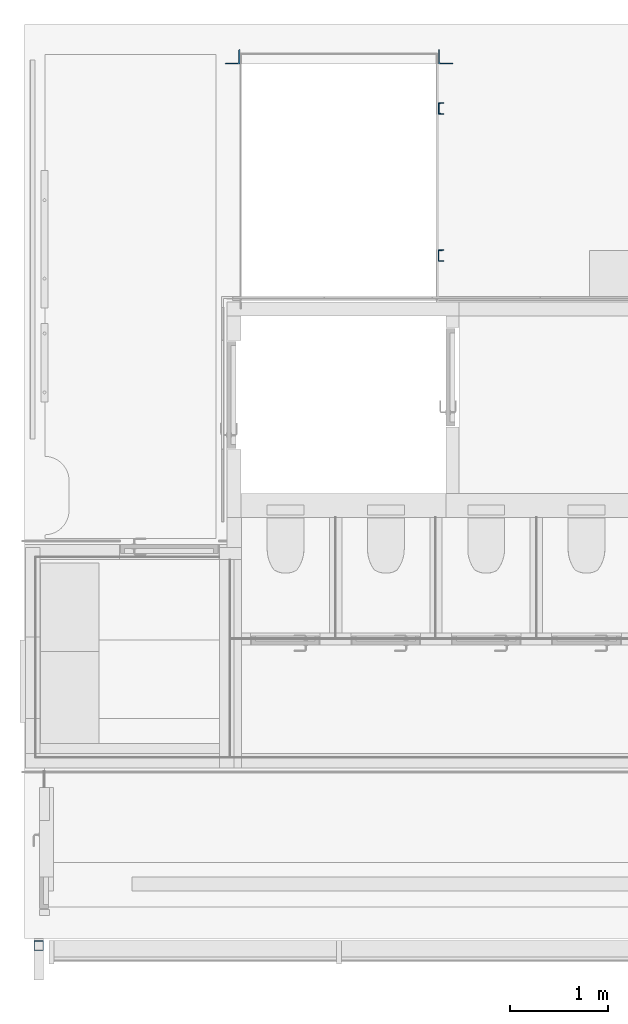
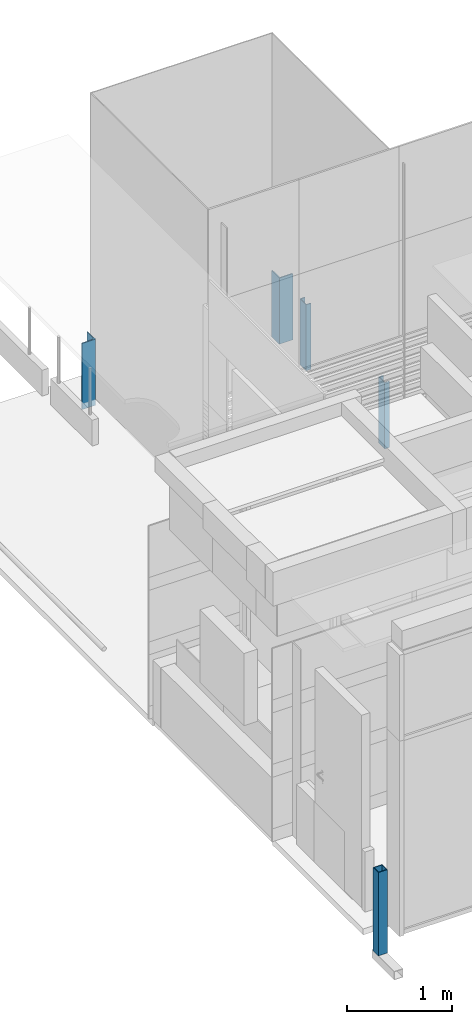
# One storey, part 1 of 26: 5 columns.
"""IFC2X3 building model written with IfcOpenShell, lengths in millimetres."""

from ifc_helpers import new_model, entity, si_unit, converted_unit, derived_unit, direction, frame, frame_2d, origin, origin_with_axes, place, context, subcontext, project, spatial, polyline, circle_curve, parameter, trimmed, segment, composite_curve, outline, extrude, source, transform, mapped, material, type_object, element, save


model = new_model("IFC2X3")

# Units and contexts
model_context = context("Model", 3, precision=0.01, world=frame((0.0, 4.29681676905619e-09, 0.0)), true_north=direction((4.01073788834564e-13, 1.0)))
plan_context = context("Plan", 3, precision=0.01, world=frame((0.0, 4.29681676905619e-09, 0.0)), true_north=direction((4.01073788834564e-13, 1.0)))
body_context = subcontext(model_context, "Body", "Model", "MODEL_VIEW")
ifc_project = project(units=[converted_unit("PLANEANGLEUNIT", "DEGREE", entity("IfcPositiveLengthMeasure", 0.0174532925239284), si_unit("PLANEANGLEUNIT", "RADIAN"), dimensions=[0, 0, 0, 0, 0, 0, 0]), si_unit("AREAUNIT", "SQUARE_METRE"), si_unit("LENGTHUNIT", "METRE", prefix="MILLI"), si_unit("MASSUNIT", "GRAM", prefix="KILO"), si_unit("POWERUNIT", "WATT"), si_unit("PRESSUREUNIT", "PASCAL", prefix="KILO"), si_unit("FORCEUNIT", "NEWTON", prefix="KILO"), si_unit("ELECTRICVOLTAGEUNIT", "VOLT"), si_unit("ELECTRICCURRENTUNIT", "AMPERE"), si_unit("THERMODYNAMICTEMPERATUREUNIT", "DEGREE_CELSIUS"), si_unit("TIMEUNIT", "SECOND"), si_unit("VOLUMEUNIT", "CUBIC_METRE"), derived_unit("LINEARVELOCITYUNIT", [(si_unit("LENGTHUNIT", "METRE"), 1), (si_unit("TIMEUNIT", "SECOND"), -1)]), derived_unit("VOLUMETRICFLOWRATEUNIT", [(si_unit("VOLUMEUNIT", "CUBIC_METRE"), 1), (si_unit("TIMEUNIT", "SECOND"), -1)]), derived_unit("THERMALTRANSMITTANCEUNIT", [(si_unit("POWERUNIT", "WATT"), 1), (si_unit("THERMODYNAMICTEMPERATUREUNIT", "KELVIN"), -1), (si_unit("AREAUNIT", "SQUARE_METRE"), -1)]), derived_unit("SOUNDPRESSUREUNIT", [(si_unit("PRESSUREUNIT", "PASCAL"), 1)])], contexts=[model_context, plan_context])

# Site, building, storey
site_placement = place(None, origin_with_axes())
site = spatial("IfcSite", under=ifc_project, at=site_placement, Name="ENGM", CompositionType="ELEMENT")
building_placement = place(site_placement, origin_with_axes())
building = spatial("IfcBuilding", under=site, at=building_placement, Name="TG", CompositionType="ELEMENT")
storey_placement = place(building_placement, frame((0.0, 0.0, 210200.0), z_axis=(0.0, 0.0, 1.0), x_axis=(1.0, 0.0, 0.0)))
storey = spatial("IfcBuildingStorey", under=building, at=storey_placement, Name="Nivå F - 0,7 m", CompositionType="ELEMENT", Elevation=210200.0)

# Columns
ifc_material = material(Name="_NSW Stål")
column_type_1 = type_object("IfcColumnType", Name="B222 - HUP (Oppsveiset):B222 - HUP oppsveiset - 100 x 100 x 6.3 mm", PredefinedType="COLUMN", material=ifc_material)
shared_shape_1 = source(origin(), body_context, "Body", "SweptSolid", [
    extrude(outline(polyline([(-50.0, -50.0), (50.0, -50.0), (50.0, 50.0), (-50.0, 50.0), (-50.0, -50.0)]), holes=[polyline([(-43.6999999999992, -43.6999999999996), (-43.6999999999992, 43.6999999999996), (43.7000000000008, 43.6999999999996), (43.7000000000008, -43.6999999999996), (-43.6999999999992, -43.6999999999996)])]), frame((0.0, 0.0, 209930.0), z_axis=(0.0, 0.0, 1.0), x_axis=(0.0, 1.0, 0.0)), (0.0, 0.0, 1.0), 970.000000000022),
])
column_1_placement = place(storey_placement, frame((321940.336691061, 458115.000000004, -210200.0), z_axis=(0.0, 0.0, 1.0), x_axis=(-1.0, 0.0, 0.0)))
element("IfcColumn", 1, at=column_1_placement, inside=storey, type_object=column_type_1, material=ifc_material, Name="B222 - HUP (Oppsveiset):B222 - HUP oppsveiset - 100 x 100 x 6.3 mm", ObjectType="B222 - HUP (Oppsveiset):B222 - HUP oppsveiset - 100 x 100 x 6.3 mm", context=body_context, shape_type="MappedRepresentation", body=[
    mapped(shared_shape_1, transform((0.0, 0.0, 0.0), scale=1.0)),
])
column_type_2 = type_object("IfcColumnType", Name="B222 - Vinkelprofil:B222 - Stålvinkel - 150 x 150 x 12 mm", PredefinedType="COLUMN", material=ifc_material)
shared_shape_2 = source(origin(), body_context, "Body", "SweptSolid", [
    extrude(outline(composite_curve([segment(polyline([(-55.3333333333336, -55.3333333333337), (94.6666666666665, -55.3333333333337)]), True, "CONTINUOUS"), segment(polyline([(94.6666666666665, -55.3333333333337), (94.6666666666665, -51.3333333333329)]), True, "CONTINUOUS"), segment(trimmed(circle_curve(frame_2d((86.6666666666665, -51.3333333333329), x_axis=(1.0, 0.0)), 8.0), [parameter(360.0)], [parameter(89.9999999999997)], True, "PARAMETER"), True, "CONTINUOUS"), segment(polyline([(86.6666666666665, -43.3333333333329), (-27.3333333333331, -43.3333333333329)]), True, "CONTINUOUS"), segment(trimmed(circle_curve(frame_2d((-27.3333333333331, -27.3333333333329), x_axis=(1.0, 0.0)), 16.0), [parameter(180.0)], [parameter(270.0)], True, "PARAMETER"), False, "CONTINUOUS"), segment(polyline([(-43.3333333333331, -27.3333333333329), (-43.3333333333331, 86.6666666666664)]), True, "CONTINUOUS"), segment(trimmed(circle_curve(frame_2d((-51.3333333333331, 86.6666666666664), x_axis=(1.0, 0.0)), 8.0), [parameter(360.0)], [parameter(89.9999999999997)], True, "PARAMETER"), True, "CONTINUOUS"), segment(polyline([(-51.333333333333, 94.6666666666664), (-55.3333333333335, 94.6666666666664)]), True, "CONTINUOUS"), segment(polyline([(-55.3333333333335, 94.6666666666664), (-55.3333333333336, -55.3333333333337)]), True, "CONTINUOUS")], self_intersect=False)), frame((5.33333333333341, -44.6666666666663, 210130.0)), (0.0, 0.0, 1.0), 769.999999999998),
])
column_2_placement = place(storey_placement, frame((323889.19999998, 467144.337500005, -210200.0), z_axis=(0.0, 0.0, 1.0), x_axis=(0.0, 1.0, 0.0)))
element("IfcColumn", 2, at=column_2_placement, inside=storey, type_object=column_type_2, material=ifc_material, Name="B222 - Vinkelprofil:B222 - Stålvinkel - 150 x 150 x 12 mm", ObjectType="B222 - Vinkelprofil:B222 - Stålvinkel - 150 x 150 x 12 mm", context=body_context, shape_type="MappedRepresentation", body=[
    mapped(shared_shape_2, transform((0.0, 0.0, 0.0), scale=1.0)),
])
column_type_3 = type_object("IfcColumnType", Name="B222 - Vinkelprofil:B222 - Stålvinkel - 150 x 150 x 12 mm", PredefinedType="COLUMN", material=ifc_material)
shared_shape_3 = source(origin(), body_context, "Body", "SweptSolid", [
    extrude(outline(composite_curve([segment(polyline([(-55.3333333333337, -55.3333333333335), (94.6666666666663, -55.3333333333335)]), True, "CONTINUOUS"), segment(polyline([(94.6666666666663, -55.3333333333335), (94.6666666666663, -51.3333333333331)]), True, "CONTINUOUS"), segment(trimmed(circle_curve(frame_2d((86.6666666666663, -51.3333333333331), x_axis=(0.0, 1.0)), 8.0), [parameter(270.0)], [parameter(3.05333249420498e-13)], True, "PARAMETER"), True, "CONTINUOUS"), segment(polyline([(86.6666666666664, -43.3333333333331), (-27.333333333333, -43.3333333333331)]), True, "CONTINUOUS"), segment(trimmed(circle_curve(frame_2d((-27.3333333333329, -27.3333333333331), x_axis=(0.0, 1.0)), 16.0), [parameter(90.0)], [parameter(180.0)], True, "PARAMETER"), False, "CONTINUOUS"), segment(polyline([(-43.3333333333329, -27.3333333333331), (-43.3333333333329, 86.6666666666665)]), True, "CONTINUOUS"), segment(trimmed(circle_curve(frame_2d((-51.3333333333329, 86.6666666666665), x_axis=(0.0, 1.0)), 8.0), [parameter(270.0)], [parameter(3.56222124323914e-13)], True, "PARAMETER"), True, "CONTINUOUS"), segment(polyline([(-51.3333333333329, 94.6666666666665), (-55.3333333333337, 94.6666666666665)]), True, "CONTINUOUS"), segment(polyline([(-55.3333333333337, 94.6666666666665), (-55.3333333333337, -55.3333333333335)]), True, "CONTINUOUS")], self_intersect=False)), frame((5.33333333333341, 44.6666666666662, 210130.0), z_axis=(0.0, 0.0, 1.0), x_axis=(0.0, -1.0, 0.0)), (0.0, 0.0, 1.0), 769.999999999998),
])
column_3_placement = place(storey_placement, frame((326112.12499998, 467144.337500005, -210200.0), z_axis=(0.0, 0.0, 1.0), x_axis=(0.0, 1.0, 0.0)))
element("IfcColumn", 3, at=column_3_placement, inside=storey, type_object=column_type_3, material=ifc_material, Name="B222 - Vinkelprofil:B222 - Stålvinkel - 150 x 150 x 12 mm", ObjectType="B222 - Vinkelprofil:B222 - Stålvinkel - 150 x 150 x 12 mm", context=body_context, shape_type="MappedRepresentation", body=[
    mapped(shared_shape_3, transform((0.0, 0.0, 0.0), scale=1.0)),
])
column_type_4 = type_object("IfcColumnType", Name="B222 - UNP (U-profil):B222 - UNP 120", PredefinedType="COLUMN", material=ifc_material)
shared_shape_4 = source(origin(), body_context, "Body", "SweptSolid", [
    extrude(outline(polyline([(-60.0, -29.2500000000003), (60.0, -29.2500000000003), (60.0, 25.7500000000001), (52.7301533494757, 25.7500000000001), (49.7102493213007, -22.2499999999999), (-49.7102493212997, -22.2499999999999), (-52.7301533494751, 25.7500000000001), (-60.0, 25.7500000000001), (-60.0, -29.2500000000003)])), frame((-6.85000000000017, 0.0, 210130.0), z_axis=(0.0, 0.0, 1.0), x_axis=(0.0, -1.0, 0.0)), (0.0, 0.0, 1.0), 769.999999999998),
])
for number, where, z_axis, x_axis in (
    (4, (326048.02499998, 466643.475000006, -210200.0), (0.0, 0.0, 1.0), (1.0, 0.0, 0.0)),
    (5, (326047.53749998, 465144.912500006, -210200.0), (0.0, 0.0, 1.0), (1.0, 0.0, 0.0)),
):
    element("IfcColumn", number, at=place(storey_placement, frame(where, z_axis=z_axis, x_axis=x_axis)), inside=storey, type_object=column_type_4, material=ifc_material, Name="B222 - UNP (U-profil):B222 - UNP 120", ObjectType="B222 - UNP (U-profil):B222 - UNP 120", context=body_context, shape_type="MappedRepresentation", body=[
        mapped(shared_shape_4, transform((0.0, 0.0, 0.0), scale=1.0)),
    ])

save(model, "model.ifc")
